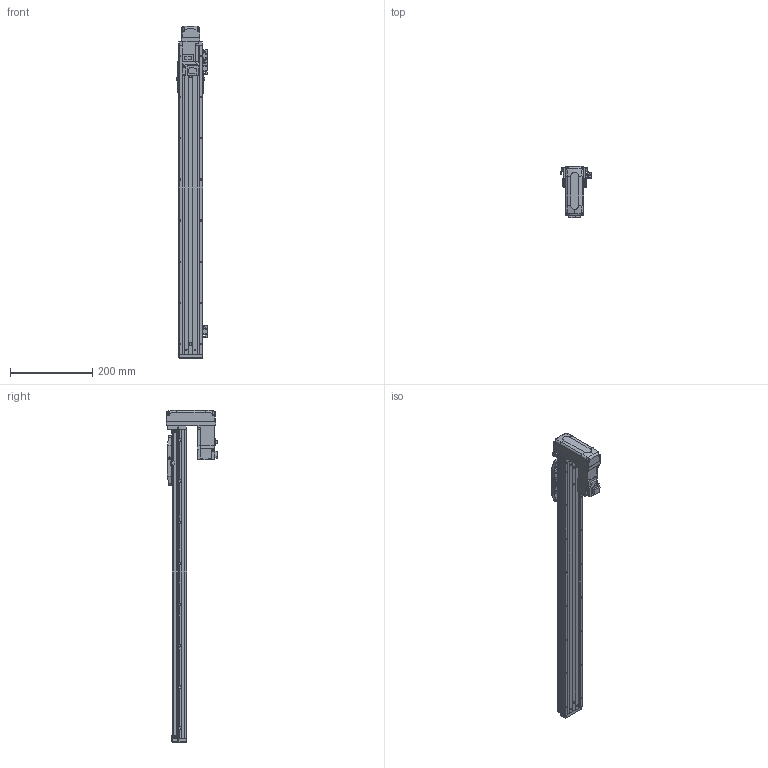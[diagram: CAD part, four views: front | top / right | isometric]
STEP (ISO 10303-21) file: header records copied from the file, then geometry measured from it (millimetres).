
FILE_DESCRIPTION (( 'STEP AP203' ), '1' );
FILE_NAME ('CTHA50-600-BM-M10-C4L.step', '2022-03-19T06:04:17', ( '微软用户' ), ( '微软中国' ), 'SwSTEP 2.0', 'SolidWorks 2020', '' );
FILE_SCHEMA (( 'CONFIG_CONTROL_DESIGN' ));
Length unit declared in the file: millimetre
Products named in the file (20): GBT77-2000 M3×3; CTHA50-002; GBT 70.3-M3℅6; GBT 70.1-M3℅6; CTHA50-030; KTHA50-001_750; CTHA50-015-2_CTHA60-015-2; CTHA60-017; CTHA50-031; KTHA50-004; CTHA60-033; GBT 70.1-M4×12; KTHA50-005; GBT 70.1-M3×15; CTHA60-016; GB¨uT 70.2-M3¡Á6_M3¡Á6; CTHA50-600-BM-M10-C4L; CTHA60-021; EE_SX911P_R; HG-KR13（三菱）
Assembly tree (60 placements, depth 2):
  CTHA50-600-BM-M10-C4L
    KTHA50-001_750
    KTHA50-004
    KTHA50-005
    GB¨uT 70.2-M3¡Á6_M3¡Á6  x10
    EE_SX911P_R  x3
    GBT77-2000 M3×3  x6
    GBT 70.1-M3℅6  x6
    CTHA60-017  x3
    GBT 70.1-M4×12  x10
    CTHA60-016  x2
    CTHA60-021  x2
    HG-KR13（三菱）
    CTHA50-002
    CTHA50-030  x2
    CTHA50-031
    GBT 70.3-M3℅6  x4
    CTHA50-015-2_CTHA60-015-2
    CTHA60-033
    GBT 70.1-M3×15  x4
Bounding box: 74.12 x 125.3 x 807 mm (x, y, z)
Volume: 1528629.3 mm3; surface area: 389809.8 mm2
Topology: 62 solids, 62 shells, 2553 faces, 6079 edges, 3726 vertices
Faces by surface type: plane 1446, cylinder 594, cone 355, torus 108, bspline 26, sphere 24
Entity records: 43977 total; most frequent: CARTESIAN_POINT 8107, DIRECTION 6865, ORIENTED_EDGE 6666, EDGE_CURVE 3333, LINE 2337, VECTOR 2337, AXIS2_PLACEMENT_3D 2264, VERTEX_POINT 2100
